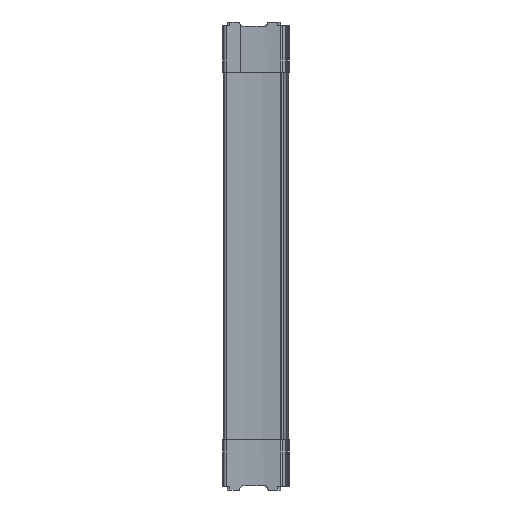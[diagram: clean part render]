
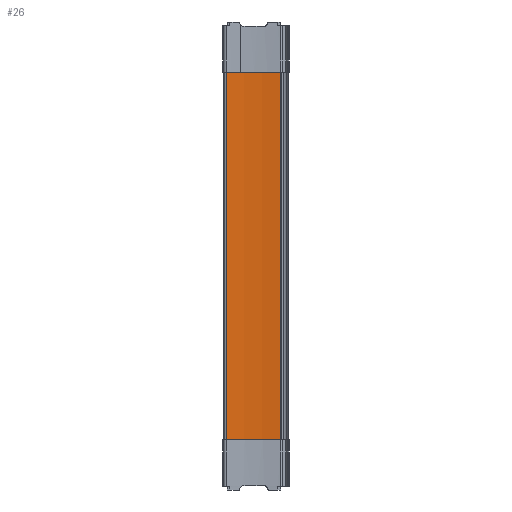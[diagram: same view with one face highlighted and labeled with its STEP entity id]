
A CAD part, left-side view. The second image highlights one B-rep face of the part: STEP entity #26.
In plain terms, the highlighted cylindrical face has radius 250 mm (diameter 500 mm), a partial arc.
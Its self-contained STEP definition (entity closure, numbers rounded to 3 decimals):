
#26 = ADVANCED_FACE ( 'NONE', ( #2236 ), #2233, .F. ) ;
#134 = LINE ( 'NONE', #1376, #137 ) ;
#137 = VECTOR ( 'NONE', #1390, 1000. ) ;
#157 = CIRCLE ( 'NONE', #2179, 250. ) ;
#271 = CIRCLE ( 'NONE', #2147, 250. ) ;
#283 = VECTOR ( 'NONE', #1525, 1000. ) ;
#285 = LINE ( 'NONE', #1524, #283 ) ;
#1376 = CARTESIAN_POINT ( 'NONE',  ( -5.747, 63.571, 193.5 ) ) ;
#1390 = DIRECTION ( 'NONE',  ( 0., 0., -1. ) ) ;
#1524 = CARTESIAN_POINT ( 'NONE',  ( -8.643, 8.331, 193.5 ) ) ;
#1525 = DIRECTION ( 'NONE',  ( 0., 0., -1. ) ) ;
#1528 = CARTESIAN_POINT ( 'NONE',  ( -255.319, 48.963, 187.5 ) ) ;
#1530 = DIRECTION ( 'NONE',  ( 0., 0., -1. ) ) ;
#1531 = DIRECTION ( 'NONE',  ( 1., 0., 0. ) ) ;
#1683 = CARTESIAN_POINT ( 'NONE',  ( -255.319, 48.963, -187.5 ) ) ;
#1689 = DIRECTION ( 'NONE',  ( 0., 0., 1. ) ) ;
#1690 = DIRECTION ( 'NONE',  ( -1., 0., 0. ) ) ;
#1721 = CARTESIAN_POINT ( 'NONE',  ( -8.643, 8.331, 187.5 ) ) ;
#1859 = CARTESIAN_POINT ( 'NONE',  ( -5.747, 63.571, -187.5 ) ) ;
#1864 = CARTESIAN_POINT ( 'NONE',  ( -5.747, 63.571, 187.5 ) ) ;
#1939 = CARTESIAN_POINT ( 'NONE',  ( -8.643, 8.331, -187.5 ) ) ;
#2147 = AXIS2_PLACEMENT_3D ( 'NONE', #1528, #1530, #1531 ) ;
#2179 = AXIS2_PLACEMENT_3D ( 'NONE', #1683, #1689, #1690 ) ;
#2233 = CYLINDRICAL_SURFACE ( 'NONE', #3410, 250. ) ;
#2236 = FACE_OUTER_BOUND ( 'NONE', #2391, .T. ) ;
#2391 = EDGE_LOOP ( 'NONE', ( #2989, #2988, #2987, #2986 ) ) ;
#2986 = ORIENTED_EDGE ( 'NONE', *, *, #3467, .T. ) ;
#2987 = ORIENTED_EDGE ( 'NONE', *, *, #3519, .F. ) ;
#2988 = ORIENTED_EDGE ( 'NONE', *, *, #3516, .F. ) ;
#2989 = ORIENTED_EDGE ( 'NONE', *, *, #3579, .F. ) ;
#3410 = AXIS2_PLACEMENT_3D ( 'NONE', #3586, #3585, #3584 ) ;
#3467 = EDGE_CURVE ( 'NONE', #3936, #3931, #134, .T. ) ;
#3516 = EDGE_CURVE ( 'NONE', #3793, #4022, #285, .T. ) ;
#3519 = EDGE_CURVE ( 'NONE', #3936, #3793, #271, .T. ) ;
#3579 = EDGE_CURVE ( 'NONE', #4022, #3931, #157, .T. ) ;
#3584 = DIRECTION ( 'NONE',  ( -1., 0., 0. ) ) ;
#3585 = DIRECTION ( 'NONE',  ( 0., 0., -1. ) ) ;
#3586 = CARTESIAN_POINT ( 'NONE',  ( -255.319, 48.963, 193.5 ) ) ;
#3793 = VERTEX_POINT ( 'NONE', #1721 ) ;
#3931 = VERTEX_POINT ( 'NONE', #1859 ) ;
#3936 = VERTEX_POINT ( 'NONE', #1864 ) ;
#4022 = VERTEX_POINT ( 'NONE', #1939 ) ;
